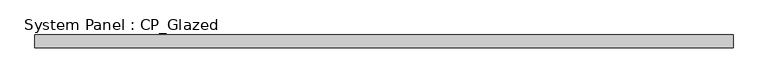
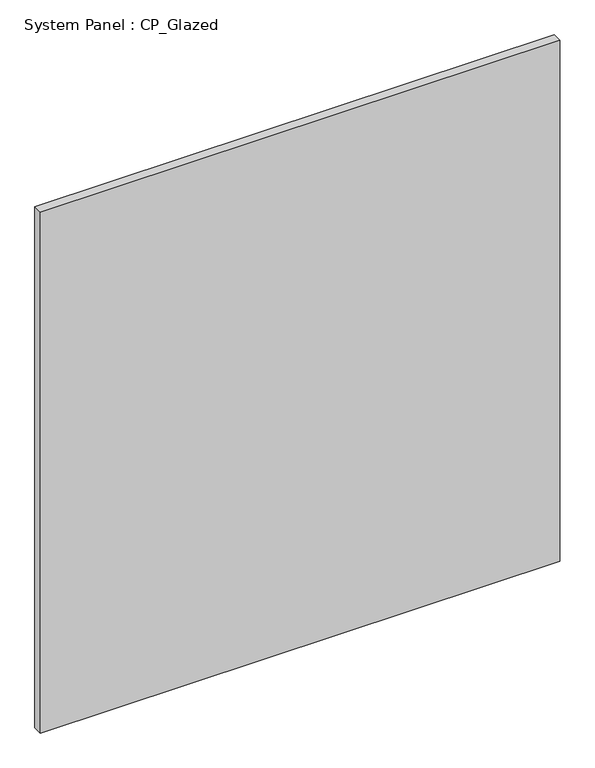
"""IFC4 building model written with IfcOpenShell, lengths in millimetres: plate geometry, System Panel : CP_Glazed."""

from ifc_helpers import new_model, si_unit, origin, origin_with_axes, place, context, project, spatial, polyline, outline, extrude, source, transform, mapped, element, save


def system_panel_cp_glazed_92f01685(model_context):
    return source(origin(), model_context, "Body", "SweptSolid", [
        extrude(outline(polyline([(698.2049424, 19.05), (-698.2049424, 19.05), (-698.2049424, 44.45), (698.2049424, 44.45), (698.2049424, 19.05)])), origin_with_axes(), (0.0, 0.0, 1.0), 1479.55),
    ])


if __name__ == "__main__":
    model = new_model("IFC4")
    model_context = context("Model", 3, world=origin())
    ifc_project = project(units=[si_unit("LENGTHUNIT", "METRE", prefix="MILLI")], contexts=[model_context])
    site = spatial("IfcSite", under=ifc_project)
    building = spatial("IfcBuilding", under=site)
    placement = place(None, origin())
    system_panel_cp_glazed_shape = system_panel_cp_glazed_92f01685(model_context)
    element("IfcPlate", 1, ObjectType="System Panel : CP_Glazed", at=placement, inside=building, context=model_context, shape_type="MappedRepresentation", body=[
        mapped(system_panel_cp_glazed_shape, transform((0.0, 0.0, 0.0), x_axis=(1.0, 0.0, 0.0), y_axis=(0.0, 1.0, 0.0), z_axis=(0.0, 0.0, 1.0))),
    ])
    save(model, "model.ifc")
